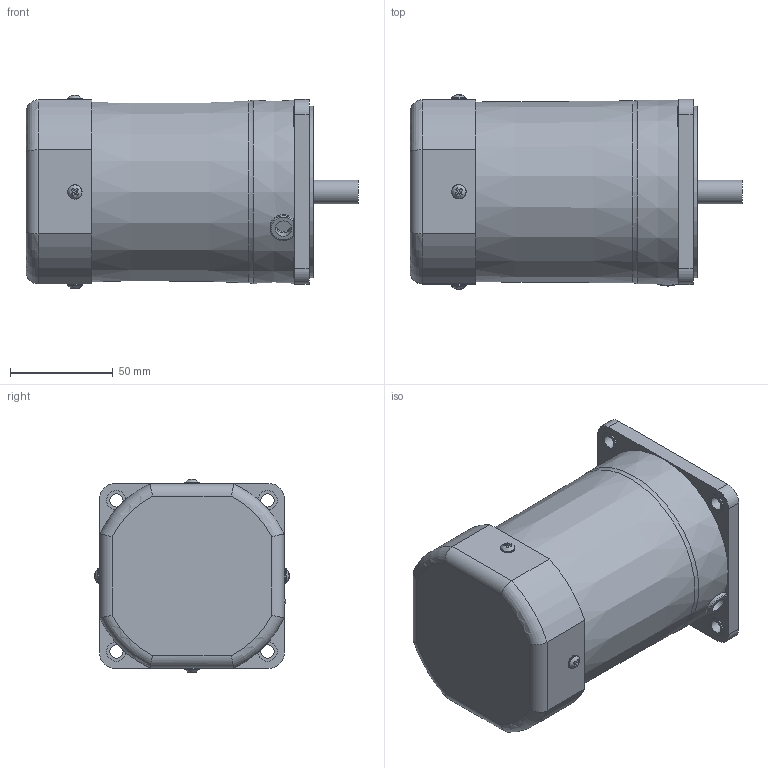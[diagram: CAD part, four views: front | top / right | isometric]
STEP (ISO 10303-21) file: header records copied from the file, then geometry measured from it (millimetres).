
FILE_DESCRIPTION((''),'2;1');
FILE_NAME('\\Spgrnd02\고객배포용도면\3D\01 Standard AC Motor\01 INDUCTION MOTOR\S9I150+S9KH\S9I150G.stp','2015-03-24T19:32:08',('smkim'),(''),'Autodesk Inventor 2012','Autodesk Inventor 2012','');
FILE_SCHEMA(('AUTOMOTIVE_DESIGN { 1 0 10303 214 1 1 1 1 }'));
Length unit declared in the file: millimetre
Products named in the file (1): S9I150G
Bounding box: 161.6 x 94.6 x 94.14 mm (x, y, z)
Volume: 882870.4 mm3; surface area: 61454 mm2
Topology: 1 solids, 3 shells, 163 faces, 408 edges, 266 vertices
Faces by surface type: plane 100, cylinder 42, torus 14, bspline 4, cone 3
Full cylindrical faces by diameter (mm): 4 x1, 6.5 x4, 7 x4, 8 x1, 9.5 x4, 10 x1, 11.5 x1, 40 x1, 83.5 x1
Entity records: 5193 total; most frequent: CARTESIAN_POINT 1343, ORIENTED_EDGE 720, DIRECTION 716, EDGE_CURVE 360, AXIS2_PLACEMENT_3D 257, VERTEX_POINT 253, EDGE_LOOP 225, VECTOR 202
